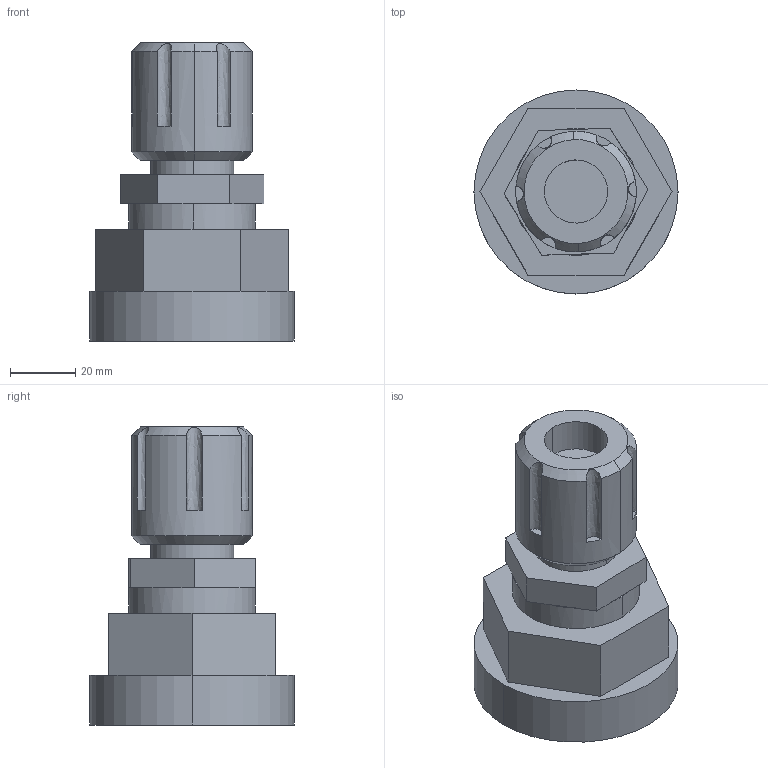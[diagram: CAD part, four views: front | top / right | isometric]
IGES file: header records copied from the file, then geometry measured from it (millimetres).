
Start section: SolidWorks IGES file using analytic representation for surfaces
Global section: file name: S:\Product Visuals\Pumps to be Defeatured\140 fittings\FITTING ASSEMBLIES\DEFEATURED\top-out\12-flaretek-top-out.IGS; native system: SolidWorks 2012; preprocessor: SolidWorks 2012; author: rachel.dressel; date: 121203.135242; units: inch
Bounding box: 62.33 x 62.33 x 91.03 mm (x, y, z)
Volume: 144527.2 mm3; surface area: 20947.7 mm2
Topology: 1 solids, 1 shells, 59 faces, 140 edges, 88 vertices
Faces by surface type: plane 37, revolution 22
